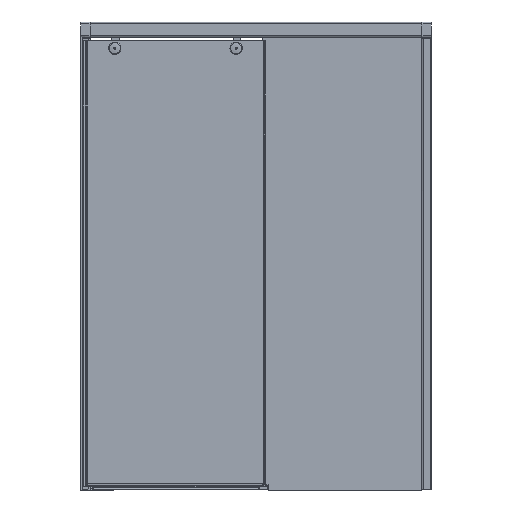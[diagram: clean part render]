
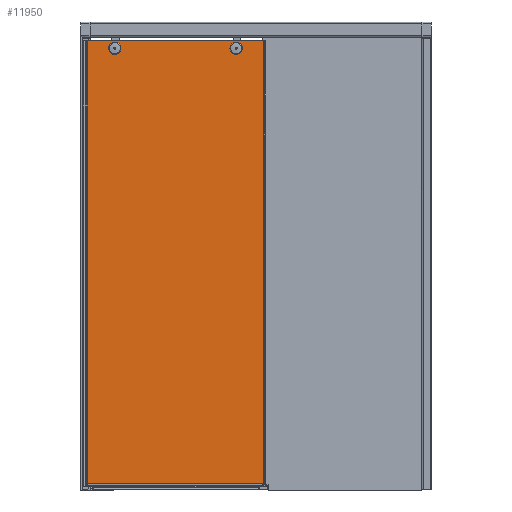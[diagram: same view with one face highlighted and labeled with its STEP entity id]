
A CAD part, left-side view. The second image highlights one B-rep face of the part: STEP entity #11950.
In plain terms, the highlighted planar face has unit normal (-1, 0, 0).
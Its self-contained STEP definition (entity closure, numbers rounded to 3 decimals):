
#281=FACE_BOUND($,#1236,.T.);
#282=FACE_BOUND($,#1237,.T.);
#283=FACE_BOUND($,#1238,.T.);
#1236=EDGE_LOOP($,(#8052));
#1237=EDGE_LOOP($,(#8053));
#1238=EDGE_LOOP($,(#8054,#8055,#8056,#8057));
#1727=CIRCLE($,#12434,18.5);
#1747=CIRCLE($,#12471,18.5);
#2423=LINE($,#17903,#3612);
#2491=LINE($,#18272,#3680);
#2492=LINE($,#18274,#3681);
#2493=LINE($,#18275,#3682);
#3612=VECTOR($,#14302,610.3);
#3680=VECTOR($,#14514,1514.4);
#3681=VECTOR($,#14515,610.3);
#3682=VECTOR($,#14516,1514.4);
#4536=VERTEX_POINT($,#16980);
#4565=VERTEX_POINT($,#17132);
#4812=VERTEX_POINT($,#17900);
#4813=VERTEX_POINT($,#17902);
#4894=VERTEX_POINT($,#18271);
#4895=VERTEX_POINT($,#18273);
#5636=EDGE_CURVE($,#4536,#4536,#1727,.T.);
#5674=EDGE_CURVE($,#4565,#4565,#1747,.T.);
#6025=EDGE_CURVE($,#4812,#4813,#2423,.T.);
#6144=EDGE_CURVE($,#4812,#4894,#2491,.T.);
#6145=EDGE_CURVE($,#4895,#4894,#2492,.T.);
#6146=EDGE_CURVE($,#4813,#4895,#2493,.T.);
#8052=ORIENTED_EDGE($,*,*,#5636,.T.);
#8053=ORIENTED_EDGE($,*,*,#5674,.T.);
#8054=ORIENTED_EDGE($,*,*,#6025,.F.);
#8055=ORIENTED_EDGE($,*,*,#6144,.T.);
#8056=ORIENTED_EDGE($,*,*,#6145,.F.);
#8057=ORIENTED_EDGE($,*,*,#6146,.F.);
#10849=PLANE($,#12738);
#11950=ADVANCED_FACE($,(#281,#282,#283),#10849,.T.);
#12434=AXIS2_PLACEMENT_3D($,#16981,#13557,#13558);
#12471=AXIS2_PLACEMENT_3D($,#17133,#13645,#13646);
#12738=AXIS2_PLACEMENT_3D($,#18270,#14512,#14513);
#13557=DIRECTION('center_axis',(1.,0.,0.));
#13558=DIRECTION('ref_axis',(0.,0.899,-0.437));
#13645=DIRECTION('center_axis',(1.,0.,0.));
#13646=DIRECTION('ref_axis',(0.,0.899,-0.437));
#14302=DIRECTION($,(0.,1.,0.));
#14512=DIRECTION('center_axis',(-1.,0.,0.));
#14513=DIRECTION('ref_axis',(0.,-1.,0.));
#14514=DIRECTION($,(0.,0.,1.));
#14515=DIRECTION($,(0.,-1.,0.));
#14516=DIRECTION($,(0.,0.,1.));
#16980=CARTESIAN_POINT('',(824.286,563.85,2069.892));
#16981=CARTESIAN_POINT('Origin',(824.286,580.486,2061.8));
#17132=CARTESIAN_POINT('',(824.286,148.85,2069.892));
#17133=CARTESIAN_POINT('Origin',(824.286,165.486,2061.8));
#17900=CARTESIAN_POINT('',(824.286,70.186,572.4));
#17902=CARTESIAN_POINT('',(824.286,680.486,572.4));
#17903=CARTESIAN_POINT($,(824.286,65.486,572.4));
#18270=CARTESIAN_POINT('Origin',(824.286,680.486,561.8));
#18271=CARTESIAN_POINT('',(824.286,70.186,2086.8));
#18272=CARTESIAN_POINT($,(824.286,70.186,1324.3));
#18273=CARTESIAN_POINT('',(824.286,680.486,2086.8));
#18274=CARTESIAN_POINT($,(824.286,680.486,2086.8));
#18275=CARTESIAN_POINT($,(824.286,680.486,561.8));
